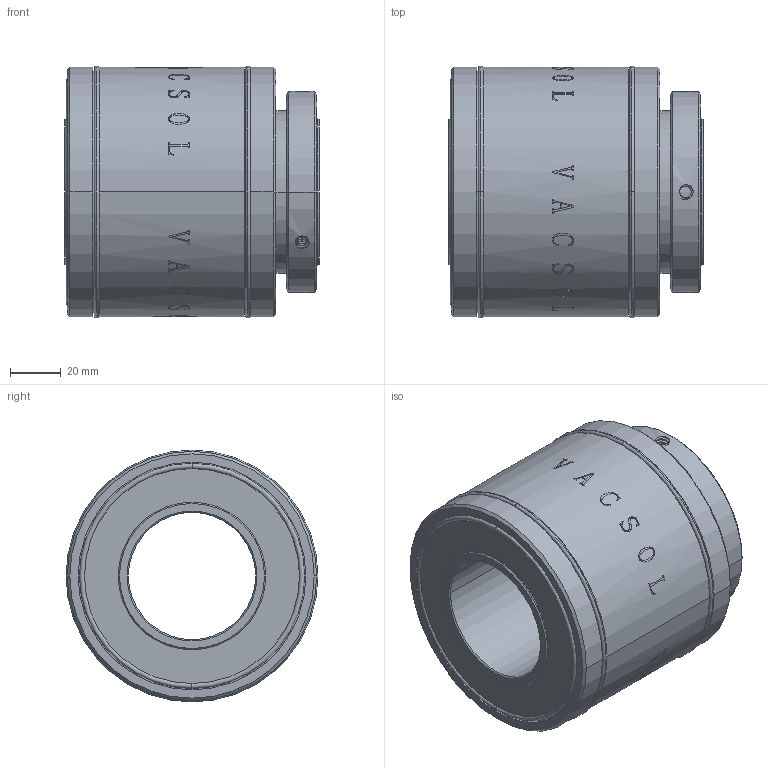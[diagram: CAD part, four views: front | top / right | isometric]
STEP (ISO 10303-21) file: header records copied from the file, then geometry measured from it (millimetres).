
FILE_DESCRIPTION (( 'STEP AP214' ), '1' );
FILE_NAME ('m50.STEP', '2010-08-26T12:07:39', ( 'user' ), ( '' ), 'SwSTEP 2.0', 'SolidWorks 2007', '' );
FILE_SCHEMA (( 'AUTOMOTIVE_DESIGN' ));
Length unit declared in the file: millimetre
Products named in the file (1): m50
Bounding box: 100 x 99 x 99 mm (x, y, z)
Volume: 496113.4 mm3; surface area: 103328.3 mm2
Topology: 5 solids, 5 shells, 443 faces, 1190 edges, 784 vertices
Faces by surface type: bspline 264, cylinder 90, plane 61, cone 16, torus 12
Entity records: 55261 total; most frequent: CARTESIAN_POINT 42844, ORIENTED_EDGE 2380, EDGE_CURVE 1190, B_SPLINE_CURVE_WITH_KNOTS 819, DIRECTION 788, VERTEX_POINT 784, EDGE_LOOP 486, ADVANCED_FACE 443
